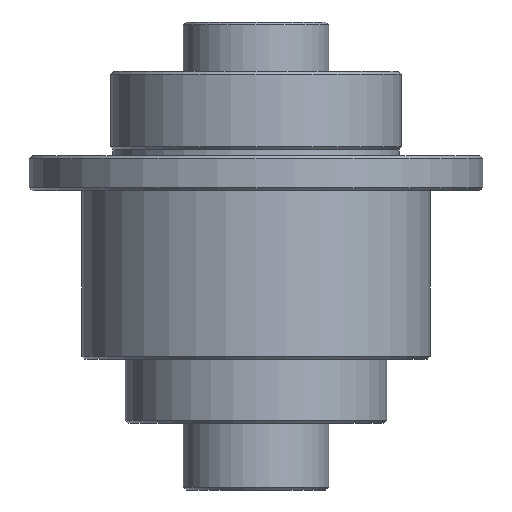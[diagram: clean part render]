
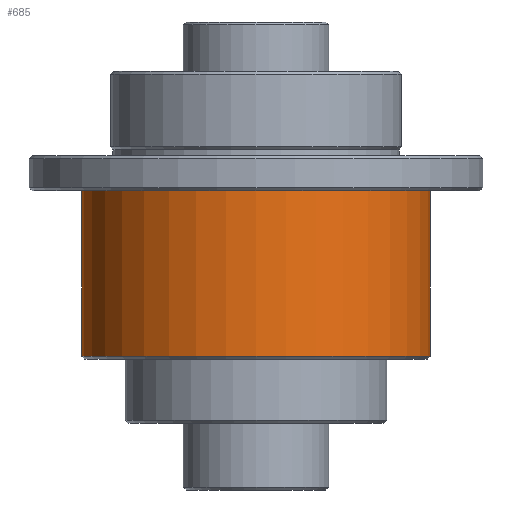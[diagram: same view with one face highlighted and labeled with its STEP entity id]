
A CAD part, front view. The second image highlights one B-rep face of the part: STEP entity #685.
In plain terms, the highlighted cylindrical face has radius 60 mm (diameter 120 mm), a partial arc.
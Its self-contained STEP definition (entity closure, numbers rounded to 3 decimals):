
#29 = FACE_OUTER_BOUND ( 'NONE', #2311, .T. ) ;
#109 = AXIS2_PLACEMENT_3D ( 'NONE', #2068, #2237, #754 ) ;
#148 = VERTEX_POINT ( 'NONE', #2082 ) ;
#268 = ORIENTED_EDGE ( 'NONE', *, *, #1937, .T. ) ;
#299 = CARTESIAN_POINT ( 'NONE',  ( 60., 0., -94.999 ) ) ;
#369 = DIRECTION ( 'NONE',  ( 0., 0., 1. ) ) ;
#467 = CYLINDRICAL_SURFACE ( 'NONE', #109, 60. ) ;
#603 = EDGE_CURVE ( 'NONE', #1984, #148, #1708, .T. ) ;
#685 = ADVANCED_FACE ( 'NONE', ( #29 ), #467, .T. ) ;
#697 = CARTESIAN_POINT ( 'NONE',  ( -60., 0., 9. ) ) ;
#717 = ORIENTED_EDGE ( 'NONE', *, *, #603, .F. ) ;
#754 = DIRECTION ( 'NONE',  ( 1., 0., 0. ) ) ;
#968 = EDGE_CURVE ( 'NONE', #1984, #1930, #2212, .T. ) ;
#986 = EDGE_CURVE ( 'NONE', #148, #1593, #1197, .T. ) ;
#1077 = DIRECTION ( 'NONE',  ( 0., 0., 1. ) ) ;
#1125 = DIRECTION ( 'NONE',  ( 0., 0., 1. ) ) ;
#1197 = CIRCLE ( 'NONE', #2227, 60. ) ;
#1222 = VECTOR ( 'NONE', #1833, 1000. ) ;
#1234 = ORIENTED_EDGE ( 'NONE', *, *, #968, .T. ) ;
#1292 = ORIENTED_EDGE ( 'NONE', *, *, #986, .F. ) ;
#1320 = LINE ( 'NONE', #1805, #2223 ) ;
#1505 = CARTESIAN_POINT ( 'NONE',  ( 0., 0., -38. ) ) ;
#1593 = VERTEX_POINT ( 'NONE', #1898 ) ;
#1694 = DIRECTION ( 'NONE',  ( 1., 0., 0. ) ) ;
#1708 = LINE ( 'NONE', #697, #1222 ) ;
#1805 = CARTESIAN_POINT ( 'NONE',  ( 60., 0., 9. ) ) ;
#1832 = CARTESIAN_POINT ( 'NONE',  ( -60., 0., -94.999 ) ) ;
#1833 = DIRECTION ( 'NONE',  ( 0., 0., 1. ) ) ;
#1898 = CARTESIAN_POINT ( 'NONE',  ( 60., 0., -38. ) ) ;
#1930 = VERTEX_POINT ( 'NONE', #299 ) ;
#1937 = EDGE_CURVE ( 'NONE', #1930, #1593, #1320, .T. ) ;
#1984 = VERTEX_POINT ( 'NONE', #1832 ) ;
#2068 = CARTESIAN_POINT ( 'NONE',  ( 0., 0., 9. ) ) ;
#2082 = CARTESIAN_POINT ( 'NONE',  ( -60., 0., -38. ) ) ;
#2212 = CIRCLE ( 'NONE', #2266, 60. ) ;
#2216 = CARTESIAN_POINT ( 'NONE',  ( 0., 0., -94.999 ) ) ;
#2223 = VECTOR ( 'NONE', #1077, 1000. ) ;
#2227 = AXIS2_PLACEMENT_3D ( 'NONE', #1505, #369, #1694 ) ;
#2237 = DIRECTION ( 'NONE',  ( 0., 0., 1. ) ) ;
#2266 = AXIS2_PLACEMENT_3D ( 'NONE', #2216, #1125, #2386 ) ;
#2311 = EDGE_LOOP ( 'NONE', ( #717, #1234, #268, #1292 ) ) ;
#2386 = DIRECTION ( 'NONE',  ( 1., 0., 0. ) ) ;
